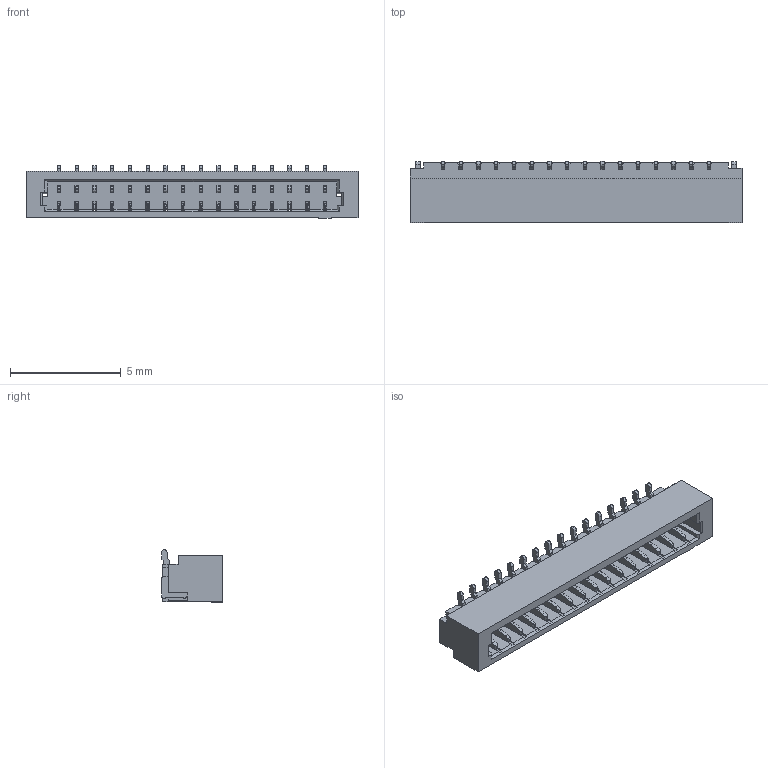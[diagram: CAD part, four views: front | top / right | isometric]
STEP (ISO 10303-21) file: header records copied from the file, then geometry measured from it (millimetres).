
FILE_DESCRIPTION((''),'2;1');
FILE_NAME('SCT0800WVS-16','2023-04-10T16:48:11',('Administrator'),(''),'CREO PARAMETRIC BY PTC INC, 2018050','CREO PARAMETRIC BY PTC INC, 2018050','');
FILE_SCHEMA(('CONFIG_CONTROL_DESIGN'));
Length unit declared in the file: millimetre
Products named in the file (1): SCT0800WVS-16
Bounding box: 14.98 x 2.75 x 2.37 mm (x, y, z)
Volume: 51.2 mm3; surface area: 312.5 mm2
Topology: 1 solids, 2 shells, 1211 faces, 3830 edges, 2536 vertices
Faces by surface type: plane 759, cylinder 452
Entity records: 42654 total; most frequent: CARTESIAN_POINT 7803, ORIENTED_EDGE 7660, DIRECTION 7024, EDGE_CURVE 3830, VECTOR 2922, LINE 2922, VERTEX_POINT 2536, AXIS2_PLACEMENT_3D 2051
